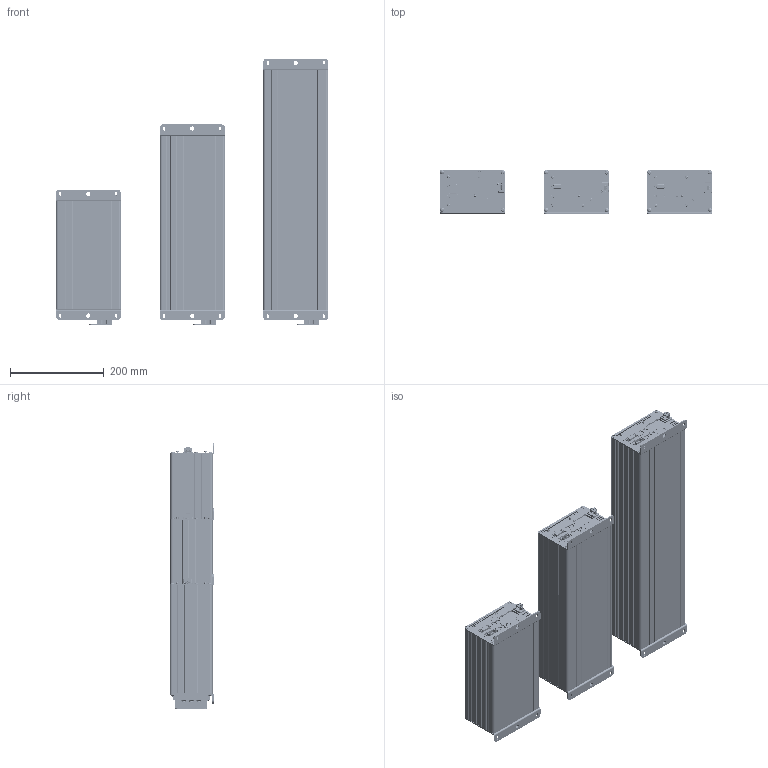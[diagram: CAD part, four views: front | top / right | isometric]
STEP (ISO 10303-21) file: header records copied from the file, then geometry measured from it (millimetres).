
FILE_DESCRIPTION(/* description */ (''),/* implementation_level */ '2;1');
FILE_NAME(/* name */ '',/* time_stamp */ '2026-08-10T09:32:25+09:00',/* author */ ('Administrator'),/* organization */ (''),/* preprocessor_version */ 'ST-DEVELOPER v20.1',/* originating_system */ 'Autodesk Inventor 2026',/* authorisation */ '');
FILE_SCHEMA (('AUTOMOTIVE_DESIGN { 1 0 10303 214 3 1 1 }'));
Products named in the file (1): CHCOM230,370,510_단순화_1
Bounding box: 580.24 x 94.06 x 567.51 mm (x, y, z)
Volume: 1898100.2 mm3; surface area: 1511973.1 mm2
Topology: 27 solids, 27 shells, 15915 faces, 42432 edges, 27726 vertices
Faces by surface type: plane 9198, bspline 3219, cylinder 3072, torus 318, sphere 63, cone 45
Full cylindrical faces by diameter (mm): 0.013 x27, 0.457 x6, 0.6 x9, 0.61 x81, 0.635 x27, 0.7 x54, 0.75 x54, 0.85 x9, 0.9 x60, 1 x15, 1.397 x27, 1.5 x12, 2.1 x12, 2.286 x27, 2.4 x6, 2.5 x12, 2.8 x30, 2.9 x6, 2.957 x24, 3 x12, 3.048 x12, 3.4 x15, 3.8 x30, 3.9 x6, 4 x45, 4.3 x12, 4.5 x30, 5 x24, 5.4 x12, 5.429 x12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
Entity records: 563181 total; most frequent: CARTESIAN_POINT 165259, ORIENTED_EDGE 84750, DIRECTION 68705, EDGE_CURVE 42375, VERTEX_POINT 27723, LINE 27165, VECTOR 27165, AXIS2_PLACEMENT_3D 20770
